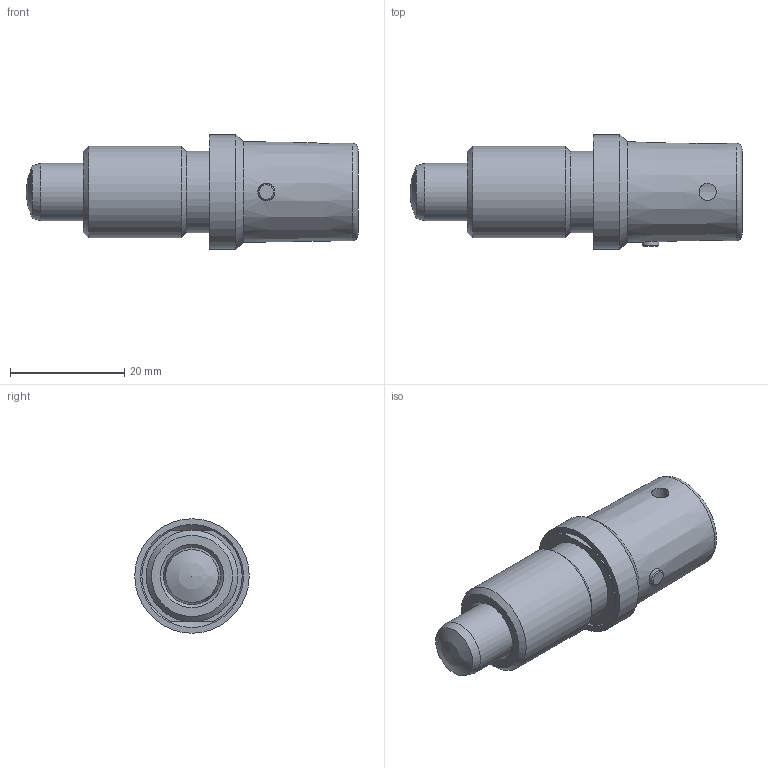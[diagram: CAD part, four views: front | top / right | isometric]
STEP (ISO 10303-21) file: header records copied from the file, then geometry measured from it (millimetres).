
FILE_DESCRIPTION( ( 'STEP AP203' ), '1' );
FILE_NAME( 'C:/Temp/Ganter_Step_05_03_2020/data/3_1/gn816/gn_816_b/Locking plunger GN 816-10-M16x1,5-B (deactivated).stp', '2020-03-12T08:55:58', ( 'License CC BY-ND 4.0' ), ( 'CADENAS' ), ' ', 'PARTsolutions', ' ' );
FILE_SCHEMA( ( 'CONFIG_CONTROL_DESIGN' ) );
Length unit declared in the file: millimetre
Products named in the file (3): Locking plunger GN 816-10-M16x1,5-B (deactivated); _GN 816-10-M16x1,5-B(0)-b2; _GN 816-10-M16x1,5-Bb1
Assembly tree (2 placements, depth 2):
  Locking plunger GN 816-10-M16x1,5-B (deactivated)
    _GN 816-10-M16x1,5-B(0)-b2
    _GN 816-10-M16x1,5-Bb1
Bounding box: 58 x 20 x 20 mm (x, y, z)
Volume: 9543.4 mm3; surface area: 6534.1 mm2
Topology: 2 solids, 2 shells, 40 faces, 79 edges, 49 vertices
Faces by surface type: cylinder 14, plane 12, cone 11, torus 2, sphere 1
Full cylindrical faces by diameter (mm): 2.9 x2, 3 x2, 7 x1, 10 x2, 11.1 x1, 14.2 x1, 16 x1, 18 x1, 20 x1
Entity records: 1288 total; most frequent: CARTESIAN_POINT 462, DIRECTION 160, ORIENTED_EDGE 96, EDGE_LOOP 78, AXIS2_PLACEMENT_3D 77, FACE_OUTER_BOUND 54, EDGE_CURVE 48, VERTEX_POINT 45
